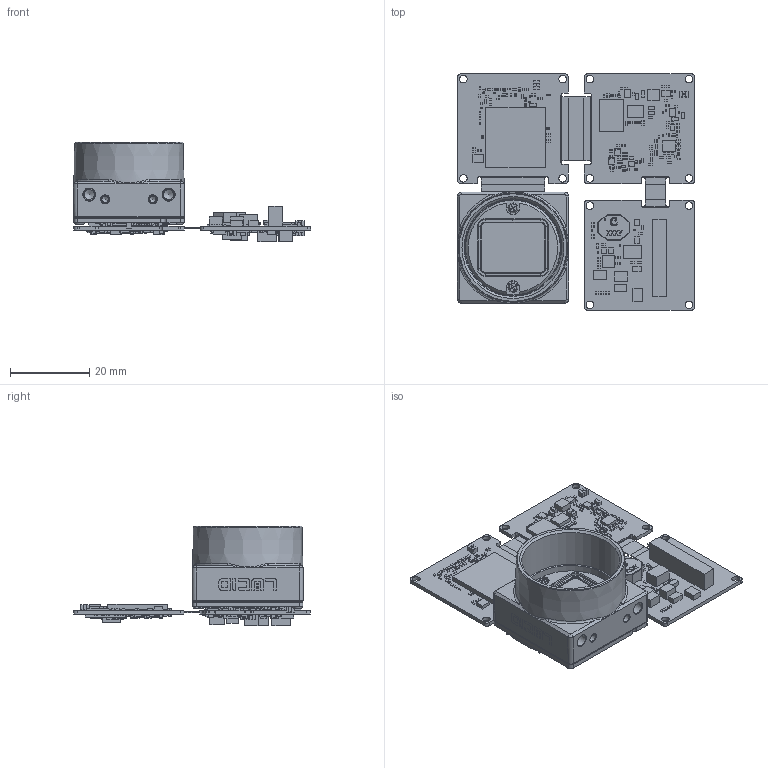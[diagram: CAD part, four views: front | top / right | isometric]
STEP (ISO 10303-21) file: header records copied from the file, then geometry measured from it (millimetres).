
FILE_DESCRIPTION (( 'STEP AP203' ), '1' );
FILE_NAME ('427-499-A.STEP', '2019-08-21T22:14:07', ( '' ), ( '' ), 'SwSTEP 2.0', 'SolidWorks 2017', '' );
FILE_SCHEMA (( 'CONFIG_CONTROL_DESIGN' ));
Products named in the file (1): 427-499-A
Bounding box: 59.74 x 59.65 x 25.03 mm (x, y, z)
Surface area: 18235.8 mm2 (no closed solid volume)
Topology: 0 solids, 695 shells, 13545 faces, 32019 edges, 18612 vertices
Faces by surface type: plane 8157, cylinder 3576, bspline 1682, cone 92, torus 36, sphere 2
Full cylindrical faces by diameter (mm): 0.099 x1, 0.177 x1, 0.206 x2, 1 x2, 1.05 x1, 1.1 x2, 1.2 x1, 1.35 x6, 1.6 x4, 1.7 x10, 1.8 x4, 1.9 x16, 2 x4, 2.5 x4, 3 x4, 24.2 x1, 24.64 x1
Entity records: 387105 total; most frequent: CARTESIAN_POINT 91075, DIRECTION 60513, ORIENTED_EDGE 60470, EDGE_CURVE 30237, VECTOR 22543, LINE 22543, AXIS2_PLACEMENT_3D 18985, VERTEX_POINT 18566
